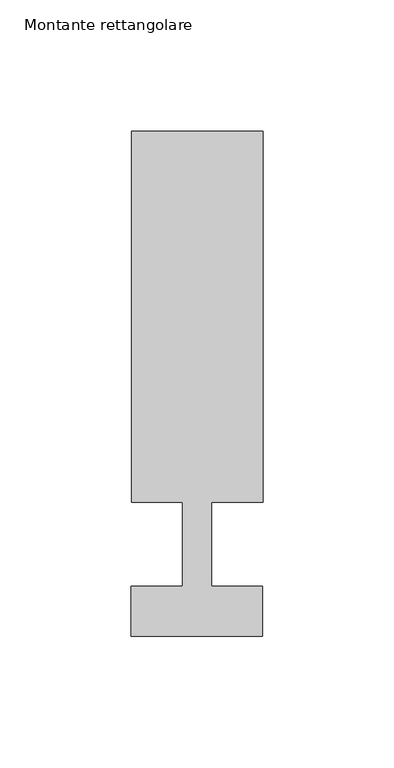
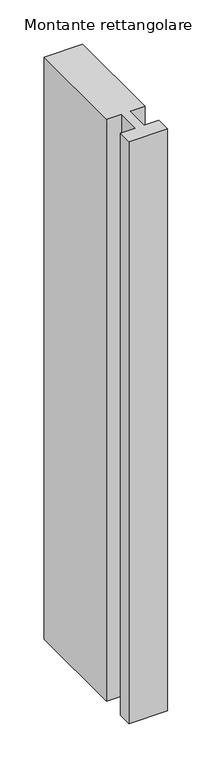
"""IFC4 building model written with IfcOpenShell, lengths in millimetres: member geometry, Montante rettangolare : Aluk_SL50_Montante K733_vetro 32."""

from ifc_helpers import new_model, si_unit, frame, origin, place, context, project, spatial, polyline, outline, extrude, source, transform, mapped, element, save


def montante_rettangolare_2b0c605b(model_context):
    return source(origin(), model_context, "Body", "SweptSolid", [
        extrude(outline(polyline([(-24.9305407, 157.0060769), (25.0694593, 157.0060769), (25.0694593, 15.9966791), (5.5694593, 15.9966791), (5.5694593, -15.9987505), (25.0393298, -15.9987505), (25.0393298, -34.9958572), (-24.9747831, -34.9958572), (-24.9747831, -15.9987505), (-5.4305407, -15.9987505), (-5.4305407, 15.9966791), (-24.9305407, 15.9966791), (-24.9305407, 157.0060769)])), frame((0.0, 0.0, -802.2), z_axis=(0.0, 0.0, 1.0), x_axis=(1.0, 0.0, 0.0)), (0.0, 0.0, 1.0), 802.2),
    ])


if __name__ == "__main__":
    model = new_model("IFC4")
    model_context = context("Model", 3, world=origin())
    ifc_project = project(units=[si_unit("LENGTHUNIT", "METRE", prefix="MILLI")], contexts=[model_context])
    site = spatial("IfcSite", under=ifc_project)
    building = spatial("IfcBuilding", under=site)
    placement = place(None, origin())
    montante_rettangolare_shape = montante_rettangolare_2b0c605b(model_context)
    element("IfcMember", 1, ObjectType="Montante rettangolare : Aluk_SL50_Montante K733_vetro 32", at=placement, inside=building, context=model_context, shape_type="MappedRepresentation", body=[
        mapped(montante_rettangolare_shape, transform((0.0, 0.0, 0.0), x_axis=(1.0, 0.0, 0.0), y_axis=(0.0, 1.0, 0.0), z_axis=(0.0, 0.0, 1.0))),
    ])
    save(model, "model.ifc")
